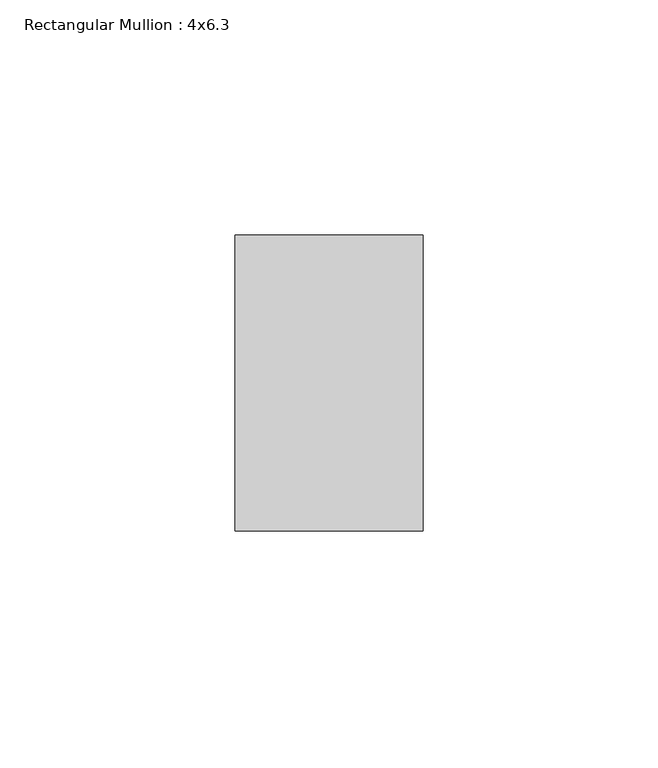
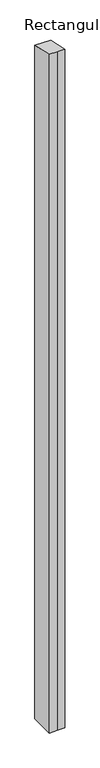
"""IFC4 building model written with IfcOpenShell, lengths in millimetres: member geometry, Rectangular Mullion : 4x6.3."""

import ifcopenshell
import ifcopenshell.guid

model = None  # the IFC model being written
_history = None  # IfcOwnerHistory: only IFC2X3 demands one
_inside = {}  # id of a spatial element -> (the spatial element, [elements in it])
_under = {}  # id of a project, library or spatial element -> (it, [spatial elements below it])
_declared = {}  # id of a project -> (the project, [libraries it declares])
_typed = {}  # id of a type object -> (the type object, [elements of that type])
_made_of = {}  # id of a material, layer set ... -> (it, [elements and type objects made of it])


def new_model(schema):
    """Start an empty IFC model of exactly this schema.

    Asked for "IFC4X3", IfcOpenShell would pick the latest addendum, in which some entities
    have other attributes; the version numbers below select the first issue.
    IFC2X3 requires an IfcOwnerHistory on every rooted entity: one is made here for all.
    """
    global model, _history
    if schema == "IFC4X3":
        model = ifcopenshell.file(schema_version=(4, 3, 0, 0))
    else:
        model = ifcopenshell.file(schema=schema)
    _inside.clear()
    _under.clear()
    _declared.clear()
    _typed.clear()
    _made_of.clear()
    _history = None
    if model.schema == "IFC2X3":
        org = make("IfcOrganization", Name="unknown")
        user = make(
            "IfcPersonAndOrganization",
            ThePerson=make("IfcPerson", FamilyName="unknown"),
            TheOrganization=org,
        )
        app = make(
            "IfcApplication",
            ApplicationDeveloper=org,
            Version="unknown",
            ApplicationFullName="unknown",
            ApplicationIdentifier="unknown",
        )
        _history = make(
            "IfcOwnerHistory",
            OwningUser=user,
            OwningApplication=app,
            ChangeAction="ADDED",
            CreationDate=0,
        )
    return model


def make(cls, **values):
    """One entity of the class cls with the attributes given. An attribute that is None is left unset."""
    return model.create_entity(
        cls, **{name: value for name, value in values.items() if value is not None}
    )


def rooted(cls, **values):
    """An entity with a GlobalId (a new one), such as an element, a storey or a relation."""
    return make(cls, GlobalId=ifcopenshell.guid.new(), OwnerHistory=_history, **values)


def si_unit(unit_type, name, prefix=None):
    """IfcSIUnit, for example si_unit("LENGTHUNIT", "METRE", prefix="MILLI")."""
    return make("IfcSIUnit", UnitType=unit_type, Prefix=prefix, Name=name)


def assignment(units):
    """IfcUnitAssignment: the units of a project."""
    return None if units is None else make("IfcUnitAssignment", Units=units)


def point(xyz):
    """IfcCartesianPoint."""
    return None if xyz is None else make("IfcCartesianPoint", Coordinates=xyz)


def direction(xyz):
    """IfcDirection."""
    return None if xyz is None else make("IfcDirection", DirectionRatios=xyz)


def frame(location, z_axis=None, x_axis=None):
    """IfcAxis2Placement3D, a coordinate frame: its origin and axes. An axis left out is left unset."""
    return make(
        "IfcAxis2Placement3D",
        Location=point(location),
        Axis=direction(z_axis),
        RefDirection=direction(x_axis),
    )


def origin():
    """The frame at (0, 0, 0) with its axes left unset."""
    return frame((0.0, 0.0, 0.0))


def place(relative_to, where):
    """IfcLocalPlacement: puts the frame where relative to a parent placement (None: the world)."""
    return make(
        "IfcLocalPlacement", PlacementRelTo=relative_to, RelativePlacement=where
    )


def context(
    kind, dimensions, precision=None, world=None, true_north=None, identifier=None
):
    """IfcGeometricRepresentationContext, for example the 3D "Model" context."""
    return make(
        "IfcGeometricRepresentationContext",
        ContextIdentifier=identifier,
        ContextType=kind,
        CoordinateSpaceDimension=dimensions,
        Precision=precision,
        WorldCoordinateSystem=world,
        TrueNorth=true_north,
    )


def project(units=None, contexts=None):
    """IfcProject with its units and contexts."""
    return rooted(
        "IfcProject",
        Name="project",
        RepresentationContexts=contexts,
        UnitsInContext=assignment(units),
    )


def spatial(cls, under=None, at=None, **own):
    """A site, building, storey or space (cls), placed at a placement, below another one or the project."""
    s = rooted(cls, ObjectPlacement=at, **own)
    if under is not None:
        _under.setdefault(under.id(), (under, []))[1].append(s)
    return s


def faces_of(points, faces, orient=None, outer=None):
    """IfcFace entities. A face is a list of loops; a loop is a list of indices into points, from 0.

    orient and outer hold one flag for each loop. By default every Orientation is true, the
    first loop of a face is its IfcFaceOuterBound and the others are IfcFaceBound.
    """
    made = []
    for i, loops in enumerate(faces):
        bounds = []
        for j, loop in enumerate(loops):
            is_outer = j == 0 if outer is None else outer[i][j]
            bounds.append(
                make(
                    "IfcFaceOuterBound" if is_outer else "IfcFaceBound",
                    Bound=make("IfcPolyLoop", Polygon=[points[k] for k in loop]),
                    Orientation=True if orient is None else orient[i][j],
                )
            )
        made.append(make("IfcFace", Bounds=bounds))
    return made


def faceted_brep(points, faces, orient=None, outer=None, voids=None):
    """IfcFacetedBrep: a solid bounded by flat faces; with voids (closed shells), ...WithVoids."""
    shared = [point(p) for p in points]
    hull = make("IfcClosedShell", CfsFaces=faces_of(shared, faces, orient, outer))
    if voids is None:
        return make("IfcFacetedBrep", Outer=hull)
    return make(
        "IfcFacetedBrepWithVoids",
        Outer=hull,
        Voids=[
            make(cls, CfsFaces=faces_of(shared, fs, o, b)) for cls, fs, o, b in voids
        ],
    )


def shape(context_of_items, identifier, shape_type, items):
    """IfcShapeRepresentation: the items that make up one representation, for example the "Body"."""
    return make(
        "IfcShapeRepresentation",
        ContextOfItems=context_of_items,
        RepresentationIdentifier=identifier,
        RepresentationType=shape_type,
        Items=items,
    )


def source(mapping_origin, context_of_items, identifier, shape_type, items):
    """IfcRepresentationMap: a shape defined once, which mapped items show again and again."""
    return make(
        "IfcRepresentationMap",
        MappingOrigin=mapping_origin,
        MappedRepresentation=shape(context_of_items, identifier, shape_type, items),
    )


def transform(
    local_origin,
    x_axis=None,
    y_axis=None,
    z_axis=None,
    scale=None,
    scale2=None,
    scale3=None,
    uniform=True,
):
    """IfcCartesianTransformationOperator3D, or its non-uniform kind. x_axis, y_axis, z_axis: its Axis1, 2, 3."""
    if uniform:
        return make(
            "IfcCartesianTransformationOperator3D",
            Axis1=direction(x_axis),
            Axis2=direction(y_axis),
            LocalOrigin=point(local_origin),
            Scale=scale,
            Axis3=direction(z_axis),
        )
    return make(
        "IfcCartesianTransformationOperator3DnonUniform",
        Axis1=direction(x_axis),
        Axis2=direction(y_axis),
        LocalOrigin=point(local_origin),
        Scale=scale,
        Axis3=direction(z_axis),
        Scale2=scale2,
        Scale3=scale3,
    )


def mapped(mapping_source, mapping_target):
    """IfcMappedItem: shows the shape of a source again, moved by a transform."""
    return make(
        "IfcMappedItem", MappingSource=mapping_source, MappingTarget=mapping_target
    )


def made_of(thing, what):
    """Note that an element or type object is made of a material, layer set ...; save() writes the relation."""
    if what is not None:
        _made_of.setdefault(what.id(), (what, []))[1].append(thing)
    return thing


def element(
    cls,
    number,
    at=None,
    inside=None,
    cuts=None,
    type_object=None,
    material=None,
    context=None,
    identifier="Body",
    shape_type=None,
    held_by="IfcProductDefinitionShape",
    body=None,
    shapes=None,
    **own,
):
    """One element of the class cls, such as IfcWall. Its Tag is "e" and its number.

    at: its placement. inside: the storey or other place that contains it. cuts: it is an
    opening in that element (IfcRelVoidsElement). A single representation is given by context,
    identifier, shape_type and body (its items); several are given by shapes. held_by: the class
    of the entity that holds the representations. save() writes the other relations.
    """
    e = rooted(cls, Tag="e%d" % number, ObjectPlacement=at, **own)
    if body is not None:
        shapes = [shape(context, identifier, shape_type, body)]
    if shapes is not None:
        e.Representation = make(held_by, Representations=shapes)
    if inside is not None:
        _inside.setdefault(inside.id(), (inside, []))[1].append(e)
    if cuts is not None:
        rooted(
            "IfcRelVoidsElement", RelatingBuildingElement=cuts, RelatedOpeningElement=e
        )
    if type_object is not None:
        _typed.setdefault(type_object.id(), (type_object, []))[1].append(e)
    return made_of(e, material)


def aggregate(whole, parts):
    """IfcRelAggregates: a whole, such as a stair, and the parts it consists of."""
    return rooted("IfcRelAggregates", RelatingObject=whole, RelatedObjects=parts)


def save(model, path):
    """Write the relations noted so far, then the file.

    IfcRelAggregates (storeys below a building ...), IfcRelContainedInSpatialStructure (elements
    in a storey), IfcRelDefinesByType, IfcRelAssociatesMaterial and IfcRelDeclares: one each for
    every whole, place, type object, material and project.
    """
    for whole, parts in _under.values():
        aggregate(whole, parts)
    for where, things in _inside.values():
        rooted(
            "IfcRelContainedInSpatialStructure",
            RelatedElements=things,
            RelatingStructure=where,
        )
    for kind, things in _typed.values():
        rooted("IfcRelDefinesByType", RelatedObjects=things, RelatingType=kind)
    for what, things in _made_of.values():
        rooted("IfcRelAssociatesMaterial", RelatedObjects=things, RelatingMaterial=what)
    for by, libraries in _declared.values():
        rooted("IfcRelDeclares", RelatingContext=by, RelatedDefinitions=libraries)
    model.write(path)


def rectangular_mullion_4x6_3_593fd091(model_context):
    return source(origin(), model_context, "Body", "Brep", [
        faceted_brep([(-20.0, 20.0, -1828.8041512), (-20.0, 83.0, -1828.8041512), (20.0, 83.0, -1828.8041512), (20.0, 20.0, -1828.8041512), (0.0, 20.0, -1828.8041512), (0.0, 20.0, -4.3995804), (-20.0, 20.0, -4.3995804), (20.0, 20.0, -4.3995804), (20.0, 83.0, -18.2582585), (-20.0, 83.0, -18.2582585)], [[[0, 1, 2, 3, 4]], [[5, 6, 0, 4]], [[7, 5, 4, 3]], [[8, 7, 3, 2]], [[9, 8, 2, 1]], [[6, 9, 1, 0]], [[6, 5, 7, 8, 9]]]),
    ])


if __name__ == "__main__":
    model = new_model("IFC4")
    model_context = context("Model", 3, world=origin())
    ifc_project = project(units=[si_unit("LENGTHUNIT", "METRE", prefix="MILLI")], contexts=[model_context])
    site = spatial("IfcSite", under=ifc_project)
    building = spatial("IfcBuilding", under=site)
    placement = place(None, origin())
    rectangular_mullion_4x6_3_shape = rectangular_mullion_4x6_3_593fd091(model_context)
    element("IfcMember", 1, ObjectType="Rectangular Mullion : 4x6.3", at=placement, inside=building, context=model_context, shape_type="MappedRepresentation", body=[
        mapped(rectangular_mullion_4x6_3_shape, transform((0.0, 0.0, 0.0), x_axis=(1.0, 0.0, 0.0), y_axis=(0.0, 1.0, 0.0), z_axis=(0.0, 0.0, 1.0))),
    ])
    save(model, "model.ifc")
